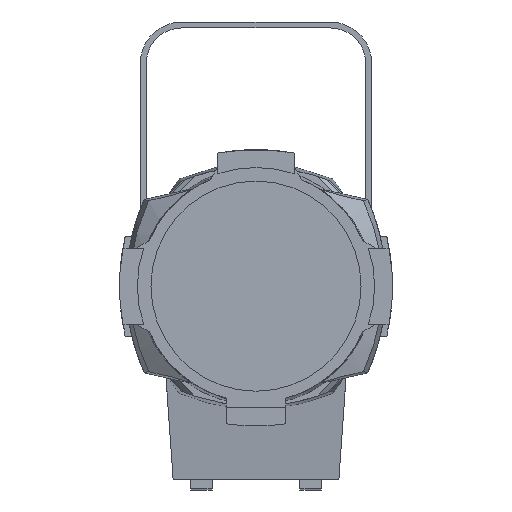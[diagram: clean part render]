
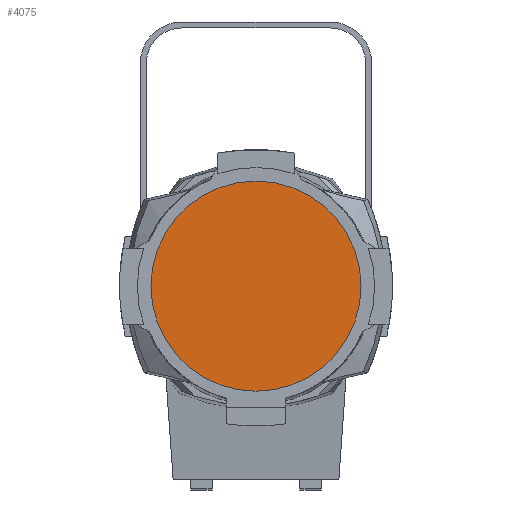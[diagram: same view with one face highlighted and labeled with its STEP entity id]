
A CAD part, front view. The second image highlights one B-rep face of the part: STEP entity #4075.
In plain terms, the highlighted planar face has unit normal (0, -1, 0).
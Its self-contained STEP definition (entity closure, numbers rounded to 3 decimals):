
#373=CIRCLE('',#5877,88.5);
#1440=ORIENTED_EDGE('',*,*,#2135,.F.);
#2135=EDGE_CURVE('',#2552,#2552,#373,.T.);
#2552=VERTEX_POINT('',#9570);
#3454=EDGE_LOOP('',(#1440));
#3706=FACE_BOUND('',#3454,.T.);
#3865=PLANE('',#5876);
#4075=ADVANCED_FACE('',(#3706),#3865,.F.);
#5876=AXIS2_PLACEMENT_3D('',#9568,#6809,#6810);
#5877=AXIS2_PLACEMENT_3D('',#9569,#6811,#6812);
#6809=DIRECTION('',(0.,1.,0.));
#6810=DIRECTION('',(0.,0.,1.));
#6811=DIRECTION('',(0.,1.,0.));
#6812=DIRECTION('',(-1.,0.,0.));
#9568=CARTESIAN_POINT('',(0.,-323.5,0.));
#9569=CARTESIAN_POINT('',(0.,-323.5,0.));
#9570=CARTESIAN_POINT('',(-88.5,-323.5,0.));
